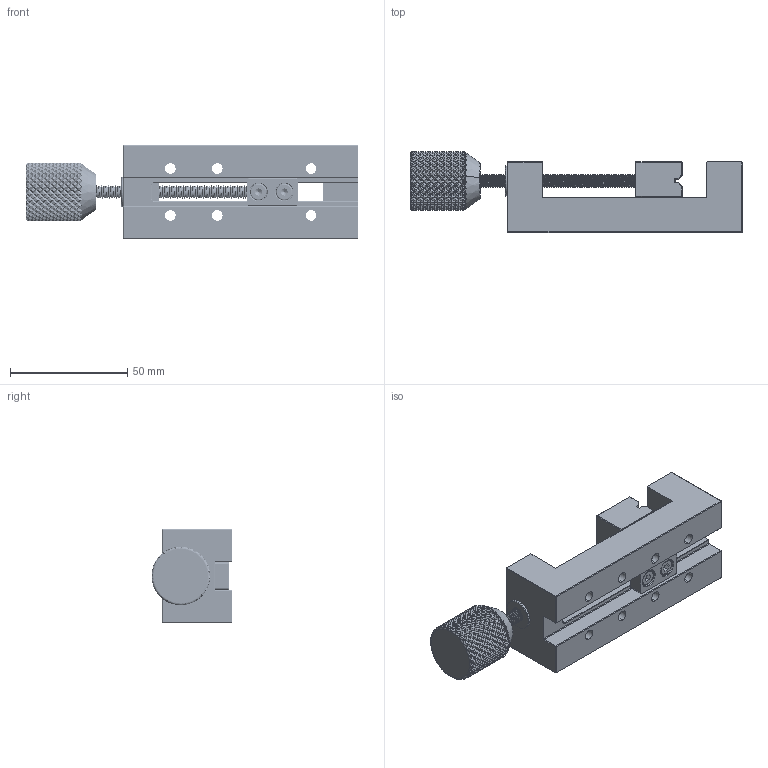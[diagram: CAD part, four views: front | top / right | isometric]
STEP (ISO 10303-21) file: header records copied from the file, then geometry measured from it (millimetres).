
FILE_DESCRIPTION (( 'STEP AP214' ), '1' );
FILE_NAME ('Assembly Vise.STEP', '2021-04-08T23:52:15', ( 'Valera' ), ( '' ), 'SwSTEP 2.0', 'SolidWorks 2020', '' );
FILE_SCHEMA (( 'AUTOMOTIVE_DESIGN' ));
Length unit declared in the file: millimetre
Products named in the file (10): Nut Brass; Assembly Vise; Vise Jaw; socket set screw flat point_din_DIN 913 - M5 x 5-S; Threaded Rod; Fix Jaw; Nut Still; Knob-M6; Vise Base; socket head cap screw 4762_din_EN ISO 4762 M4 x 8 - 8S
Assembly tree (10 placements, depth 2):
  Assembly Vise
    Vise Base
    Vise Jaw
    Fix Jaw
    socket head cap screw 4762_din_EN ISO 4762 M4 x 8 - 8S  x2
    socket set screw flat point_din_DIN 913 - M5 x 5-S
    Nut Still
    Nut Brass
    Threaded Rod
    Knob-M6
Bounding box: 141.53 x 34.5 x 40 mm (x, y, z)
Volume: 86926.4 mm3; surface area: 35984 mm2
Topology: 10 solids, 10 shells, 3587 faces, 8118 edges, 4565 vertices
Faces by surface type: bspline 1993, cylinder 1043, plane 260, cone 189, torus 102
Entity records: 255161 total; most frequent: CARTESIAN_POINT 176431, ORIENTED_EDGE 15832, EDGE_CURVE 7916, DIRECTION 5270, VERTEX_POINT 4444, EDGE_LOOP 3560, ADVANCED_FACE 3508, FACE_OUTER_BOUND 3508
